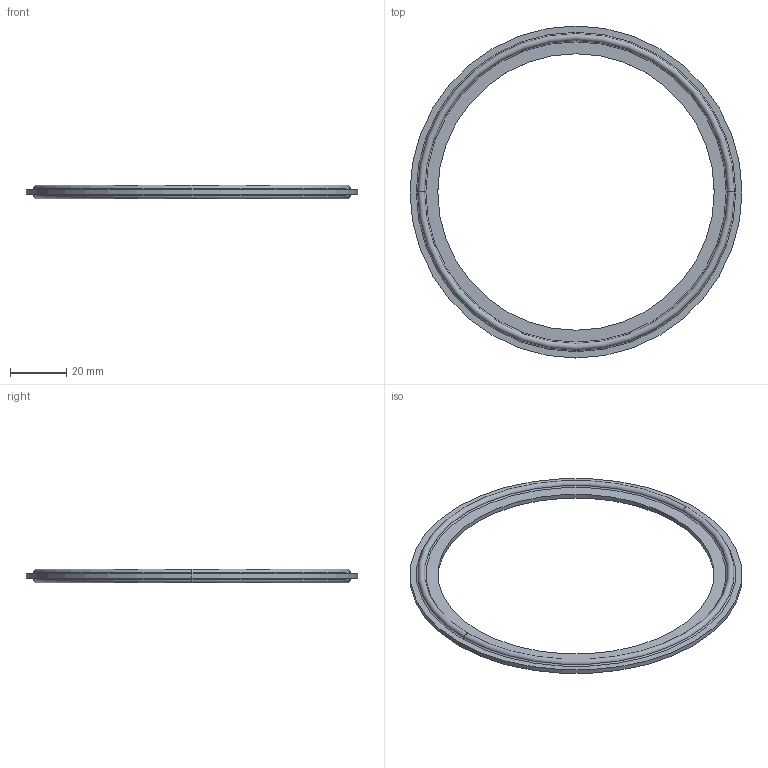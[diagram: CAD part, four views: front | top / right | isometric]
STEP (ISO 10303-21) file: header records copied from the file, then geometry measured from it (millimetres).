
FILE_DESCRIPTION (( 'STEP AP214' ), '1' );
FILE_NAME ('EG40 4.0 GASKET.STEP', '2024-10-10T10:49:42', ( '' ), ( '' ), 'SwSTEP 2.0', 'SolidWorks 2021', '' );
FILE_SCHEMA (( 'AUTOMOTIVE_DESIGN' ));
Length unit declared in the file: inch
Products named in the file (1): EG40 4.0 GASKET
Bounding box: 118.21 x 118.21 x 4.79 mm (x, y, z)
Volume: 7637.8 mm3; surface area: 9016 mm2
Topology: 1 solids, 1 shells, 20 faces, 40 edges, 24 vertices
Faces by surface type: torus 12, cylinder 4, plane 4
Entity records: 580 total; most frequent: DIRECTION 118, CARTESIAN_POINT 85, ORIENTED_EDGE 80, AXIS2_PLACEMENT_3D 57, EDGE_CURVE 40, CIRCLE 36, VERTEX_POINT 24, EDGE_LOOP 24
